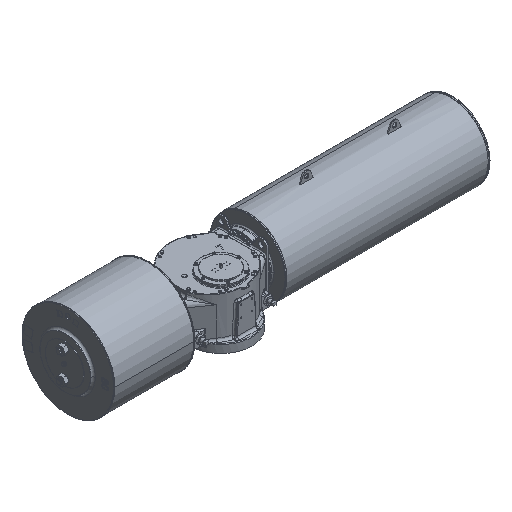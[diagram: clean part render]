
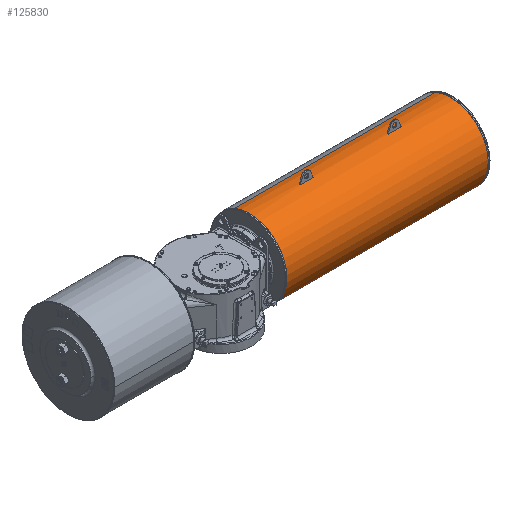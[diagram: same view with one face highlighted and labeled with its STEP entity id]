
A CAD part, isometric view. The second image highlights one B-rep face of the part: STEP entity #125830.
In plain terms, the highlighted cylindrical face has radius 340 mm (diameter 680 mm), a partial arc.
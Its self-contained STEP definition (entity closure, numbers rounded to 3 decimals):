
#589 = CARTESIAN_POINT ( 'NONE',  ( 1718., 203., 168. ) ) ;
#885 = DIRECTION ( 'NONE',  ( 0., 0., 1. ) ) ;
#1129 = ORIENTED_EDGE ( 'NONE', *, *, #123618, .T. ) ;
#1202 = EDGE_CURVE ( 'NONE', #90195, #127744, #99160, .T. ) ;
#1734 = VERTEX_POINT ( 'NONE', #101166 ) ;
#1786 = EDGE_LOOP ( 'NONE', ( #102289, #15038, #36923, #73584, #104660, #125124 ) ) ;
#1942 = FACE_BOUND ( 'NONE', #48506, .T. ) ;
#2443 = CARTESIAN_POINT ( 'NONE',  ( 1038., 203., 508. ) ) ;
#3266 = CARTESIAN_POINT ( 'NONE',  ( 1718., 203., 508. ) ) ;
#3843 = VERTEX_POINT ( 'NONE', #127665 ) ;
#4075 = LINE ( 'NONE', #72771, #115182 ) ;
#6907 = EDGE_CURVE ( 'NONE', #85185, #48906, #37935, .T. ) ;
#8313 = EDGE_CURVE ( 'NONE', #86640, #86856, #108224, .T. ) ;
#9182 = AXIS2_PLACEMENT_3D ( 'NONE', #58719, #36234, #36880 ) ;
#10837 = DIRECTION ( 'NONE',  ( -1., 0., 0. ) ) ;
#11606 = CARTESIAN_POINT ( 'NONE',  ( 1838., 203., 508. ) ) ;
#12963 = DIRECTION ( 'NONE',  ( 0., -1., 0. ) ) ;
#15038 = ORIENTED_EDGE ( 'NONE', *, *, #34734, .T. ) ;
#15421 = DIRECTION ( 'NONE',  ( 0., -1., 0. ) ) ;
#17990 = CARTESIAN_POINT ( 'NONE',  ( 2298., 198., 507.963 ) ) ;
#19331 = CARTESIAN_POINT ( 'NONE',  ( 918., 203., 168. ) ) ;
#19764 = DIRECTION ( 'NONE',  ( 0., 0., -1. ) ) ;
#20276 = EDGE_CURVE ( 'NONE', #127614, #110335, #24847, .T. ) ;
#20930 = CARTESIAN_POINT ( 'NONE',  ( 1838., 203., 168. ) ) ;
#21392 = LINE ( 'NONE', #72853, #94338 ) ;
#22747 = DIRECTION ( 'NONE',  ( -1., 0., 0. ) ) ;
#24138 = ORIENTED_EDGE ( 'NONE', *, *, #58540, .F. ) ;
#24839 = CARTESIAN_POINT ( 'NONE',  ( 1718., 198., 507.963 ) ) ;
#24847 = CIRCLE ( 'NONE', #96507, 340. ) ;
#25166 = DIRECTION ( 'NONE',  ( -1., 0., 0. ) ) ;
#28896 = ORIENTED_EDGE ( 'NONE', *, *, #62553, .F. ) ;
#31576 = AXIS2_PLACEMENT_3D ( 'NONE', #80373, #68470, #119980 ) ;
#32284 = DIRECTION ( 'NONE',  ( -1., 0., 0. ) ) ;
#32629 = CARTESIAN_POINT ( 'NONE',  ( 1838., 203., 168. ) ) ;
#32973 = DIRECTION ( 'NONE',  ( 0., 0.402, 0.916 ) ) ;
#33012 = CARTESIAN_POINT ( 'NONE',  ( 1038., 208., 507.963 ) ) ;
#33212 = VERTEX_POINT ( 'NONE', #11606 ) ;
#33327 = ORIENTED_EDGE ( 'NONE', *, *, #121776, .F. ) ;
#33721 = CIRCLE ( 'NONE', #31576, 340. ) ;
#34734 = EDGE_CURVE ( 'NONE', #77217, #127744, #21392, .T. ) ;
#34951 = VERTEX_POINT ( 'NONE', #36416 ) ;
#35178 = AXIS2_PLACEMENT_3D ( 'NONE', #20930, #90918, #12963 ) ;
#36109 = ORIENTED_EDGE ( 'NONE', *, *, #49644, .F. ) ;
#36234 = DIRECTION ( 'NONE',  ( -1., 0., 0. ) ) ;
#36392 = CARTESIAN_POINT ( 'NONE',  ( 2298., 208., 507.963 ) ) ;
#36416 = CARTESIAN_POINT ( 'NONE',  ( 918., 208., 507.963 ) ) ;
#36466 = DIRECTION ( 'NONE',  ( 1., 0., 0. ) ) ;
#36880 = DIRECTION ( 'NONE',  ( 0., 0., 1. ) ) ;
#36923 = ORIENTED_EDGE ( 'NONE', *, *, #1202, .F. ) ;
#37766 = LINE ( 'NONE', #17990, #91133 ) ;
#37935 = CIRCLE ( 'NONE', #116028, 340. ) ;
#40849 = DIRECTION ( 'NONE',  ( 1., 0., 0. ) ) ;
#41065 = DIRECTION ( 'NONE',  ( 1., 0., 0. ) ) ;
#42196 = CARTESIAN_POINT ( 'NONE',  ( 2298., 203., 168. ) ) ;
#43062 = CARTESIAN_POINT ( 'NONE',  ( 1038., 203., 168. ) ) ;
#44364 = ORIENTED_EDGE ( 'NONE', *, *, #114512, .T. ) ;
#44533 = EDGE_CURVE ( 'NONE', #77217, #33212, #75277, .T. ) ;
#45796 = AXIS2_PLACEMENT_3D ( 'NONE', #32629, #22747, #15421 ) ;
#46197 = AXIS2_PLACEMENT_3D ( 'NONE', #42196, #32284, #102976 ) ;
#48506 = EDGE_LOOP ( 'NONE', ( #72555, #28896, #119663, #24138, #36109, #44364 ) ) ;
#48789 = CARTESIAN_POINT ( 'NONE',  ( 2298., 208., 507.963 ) ) ;
#48906 = VERTEX_POINT ( 'NONE', #106336 ) ;
#49644 = EDGE_CURVE ( 'NONE', #34951, #1734, #121994, .T. ) ;
#51037 = CARTESIAN_POINT ( 'NONE',  ( 1038., 198., 507.963 ) ) ;
#52176 = EDGE_CURVE ( 'NONE', #89000, #3843, #33721, .T. ) ;
#57702 = DIRECTION ( 'NONE',  ( 0., 1., 0. ) ) ;
#58540 = EDGE_CURVE ( 'NONE', #1734, #74383, #116076, .T. ) ;
#58715 = DIRECTION ( 'NONE',  ( -1., 0., 0. ) ) ;
#58719 = CARTESIAN_POINT ( 'NONE',  ( 1038., 203., 168. ) ) ;
#60024 = LINE ( 'NONE', #130694, #115528 ) ;
#62553 = EDGE_CURVE ( 'NONE', #76125, #127614, #89192, .T. ) ;
#62700 = CIRCLE ( 'NONE', #45796, 340. ) ;
#62911 = DIRECTION ( 'NONE',  ( -1., 0., 0. ) ) ;
#64174 = CARTESIAN_POINT ( 'NONE',  ( 1838., 198., 507.963 ) ) ;
#65040 = AXIS2_PLACEMENT_3D ( 'NONE', #19331, #41065, #91912 ) ;
#65971 = ORIENTED_EDGE ( 'NONE', *, *, #6907, .T. ) ;
#68470 = DIRECTION ( 'NONE',  ( 1., 0., 0. ) ) ;
#72555 = ORIENTED_EDGE ( 'NONE', *, *, #20276, .F. ) ;
#72771 = CARTESIAN_POINT ( 'NONE',  ( 2298., 66.339, -143.326 ) ) ;
#72853 = CARTESIAN_POINT ( 'NONE',  ( 2298., 198., 507.963 ) ) ;
#73234 = CYLINDRICAL_SURFACE ( 'NONE', #46197, 340. ) ;
#73584 = ORIENTED_EDGE ( 'NONE', *, *, #111345, .F. ) ;
#74383 = VERTEX_POINT ( 'NONE', #76874 ) ;
#74584 = DIRECTION ( 'NONE',  ( -1., 0., 0. ) ) ;
#75277 = CIRCLE ( 'NONE', #35178, 340. ) ;
#76125 = VERTEX_POINT ( 'NONE', #51037 ) ;
#76874 = CARTESIAN_POINT ( 'NONE',  ( 918., 198., 507.963 ) ) ;
#77217 = VERTEX_POINT ( 'NONE', #64174 ) ;
#77354 = LINE ( 'NONE', #36392, #120807 ) ;
#77992 = AXIS2_PLACEMENT_3D ( 'NONE', #589, #40849, #19764 ) ;
#80373 = CARTESIAN_POINT ( 'NONE',  ( 462.615, 203., 168. ) ) ;
#82034 = CARTESIAN_POINT ( 'NONE',  ( 1718., 208., 507.963 ) ) ;
#83123 = FACE_BOUND ( 'NONE', #1786, .T. ) ;
#84295 = CIRCLE ( 'NONE', #77992, 340. ) ;
#85185 = VERTEX_POINT ( 'NONE', #117858 ) ;
#85518 = EDGE_CURVE ( 'NONE', #74383, #76125, #37766, .T. ) ;
#86640 = VERTEX_POINT ( 'NONE', #97276 ) ;
#86856 = VERTEX_POINT ( 'NONE', #82034 ) ;
#89000 = VERTEX_POINT ( 'NONE', #104281 ) ;
#89192 = CIRCLE ( 'NONE', #9182, 340. ) ;
#90195 = VERTEX_POINT ( 'NONE', #3266 ) ;
#90918 = DIRECTION ( 'NONE',  ( -1., 0., 0. ) ) ;
#91133 = VECTOR ( 'NONE', #36466, 1000. ) ;
#91912 = DIRECTION ( 'NONE',  ( 0., 1., 0. ) ) ;
#92836 = EDGE_CURVE ( 'NONE', #33212, #86640, #62700, .T. ) ;
#94338 = VECTOR ( 'NONE', #10837, 1000. ) ;
#95892 = DIRECTION ( 'NONE',  ( 1., 0., 0. ) ) ;
#96507 = AXIS2_PLACEMENT_3D ( 'NONE', #43062, #62911, #885 ) ;
#97276 = CARTESIAN_POINT ( 'NONE',  ( 1838., 208., 507.963 ) ) ;
#98331 = DIRECTION ( 'NONE',  ( -1., 0., 0. ) ) ;
#99160 = CIRCLE ( 'NONE', #109700, 340. ) ;
#100641 = DIRECTION ( 'NONE',  ( 1., 0., 0. ) ) ;
#101166 = CARTESIAN_POINT ( 'NONE',  ( 918., 203., 508. ) ) ;
#102112 = VECTOR ( 'NONE', #98331, 1000. ) ;
#102289 = ORIENTED_EDGE ( 'NONE', *, *, #44533, .F. ) ;
#102976 = DIRECTION ( 'NONE',  ( 0., -0.402, -0.916 ) ) ;
#104281 = CARTESIAN_POINT ( 'NONE',  ( 462.615, 339.661, 479.326 ) ) ;
#104660 = ORIENTED_EDGE ( 'NONE', *, *, #8313, .F. ) ;
#106336 = CARTESIAN_POINT ( 'NONE',  ( 2293.385, 339.661, 479.326 ) ) ;
#108224 = LINE ( 'NONE', #48789, #102112 ) ;
#109700 = AXIS2_PLACEMENT_3D ( 'NONE', #111194, #121740, #112486 ) ;
#109873 = CARTESIAN_POINT ( 'NONE',  ( 918., 203., 168. ) ) ;
#110335 = VERTEX_POINT ( 'NONE', #33012 ) ;
#111194 = CARTESIAN_POINT ( 'NONE',  ( 1718., 203., 168. ) ) ;
#111345 = EDGE_CURVE ( 'NONE', #86856, #90195, #84295, .T. ) ;
#112486 = DIRECTION ( 'NONE',  ( 0., 0., -1. ) ) ;
#112898 = CARTESIAN_POINT ( 'NONE',  ( 2293.385, 203., 168. ) ) ;
#114013 = AXIS2_PLACEMENT_3D ( 'NONE', #109873, #100641, #57702 ) ;
#114512 = EDGE_CURVE ( 'NONE', #34951, #110335, #77354, .T. ) ;
#115182 = VECTOR ( 'NONE', #25166, 1000. ) ;
#115528 = VECTOR ( 'NONE', #58715, 1000. ) ;
#116028 = AXIS2_PLACEMENT_3D ( 'NONE', #112898, #74584, #32973 ) ;
#116076 = CIRCLE ( 'NONE', #114013, 340. ) ;
#117858 = CARTESIAN_POINT ( 'NONE',  ( 2293.385, 66.339, -143.326 ) ) ;
#117961 = EDGE_LOOP ( 'NONE', ( #65971, #1129, #129906, #33327 ) ) ;
#119663 = ORIENTED_EDGE ( 'NONE', *, *, #85518, .F. ) ;
#119980 = DIRECTION ( 'NONE',  ( 0., 0.402, 0.916 ) ) ;
#120807 = VECTOR ( 'NONE', #95892, 1000. ) ;
#121740 = DIRECTION ( 'NONE',  ( 1., 0., 0. ) ) ;
#121776 = EDGE_CURVE ( 'NONE', #85185, #3843, #4075, .T. ) ;
#121994 = CIRCLE ( 'NONE', #65040, 340. ) ;
#122771 = FACE_OUTER_BOUND ( 'NONE', #117961, .T. ) ;
#123618 = EDGE_CURVE ( 'NONE', #48906, #89000, #60024, .T. ) ;
#125124 = ORIENTED_EDGE ( 'NONE', *, *, #92836, .F. ) ;
#125830 = ADVANCED_FACE ( 'NONE', ( #83123, #1942, #122771 ), #73234, .T. ) ;
#127614 = VERTEX_POINT ( 'NONE', #2443 ) ;
#127665 = CARTESIAN_POINT ( 'NONE',  ( 462.615, 66.339, -143.326 ) ) ;
#127744 = VERTEX_POINT ( 'NONE', #24839 ) ;
#129906 = ORIENTED_EDGE ( 'NONE', *, *, #52176, .T. ) ;
#130694 = CARTESIAN_POINT ( 'NONE',  ( 2298., 339.661, 479.326 ) ) ;
